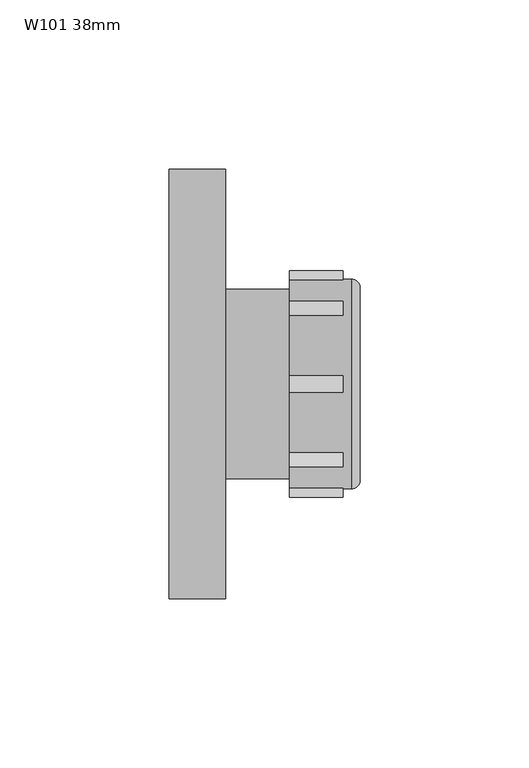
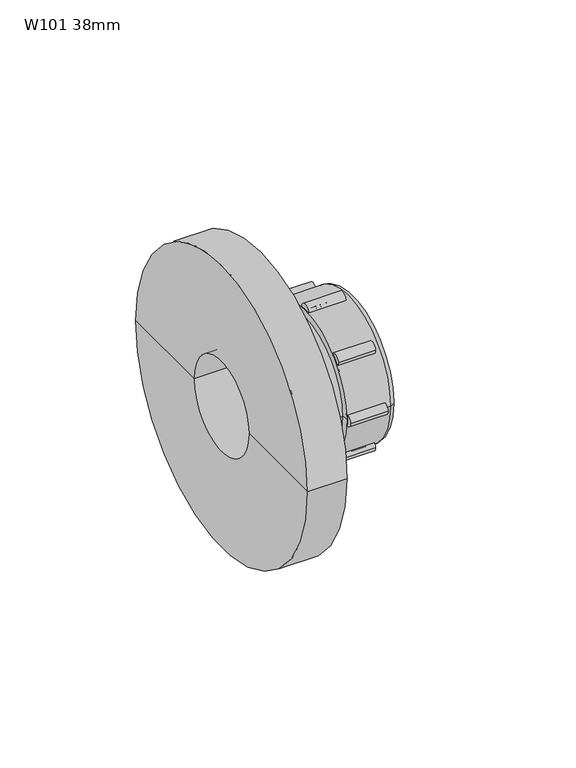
"""IFC4 building model written with IfcOpenShell, lengths in millimetres: pipe fitting geometry, Durapipe_PipeFitting_VulcatheneMechanical_Flange_(L364-L40) : W101 38mm."""

from ifc_helpers import new_model, si_unit, point, frame, frame_2d, origin, place, context, project, spatial, polyline, circle_curve, ellipse_curve, trimmed, segment, composite_curve, outline, extrude, source, transform, mapped, element, save
from ifc_brep_helpers import plane_surface, cylinder_surface, revolved_surface, advanced_brep


def w101_38mm_a402c0b6(model_context):
    return source(origin(), model_context, "Body", "SolidModel", [
        advanced_brep(
        [(24.05, -18.5969083, -18.5969083), (24.05, 18.5969083, 18.5969083), (24.05, 17.1119841, 17.1119841), (24.05, -17.1119841, -17.1119841), (19.05, -18.3140656, -18.3140656), (19.05, 18.3140656, 18.3140656), (17.55, -18.1019336, -18.1019336), (17.55, 18.1019336, 18.1019336), (19.05, 18.1019336, 18.1019336), (19.05, -18.1019336, -18.1019336), (17.55, -17.1119841, -17.1119841), (17.55, 17.1119841, 17.1119841), (19.55, -17.1119841, -17.1119841), (19.55, 17.1119841, 17.1119841), (19.55, -16.5462987, -16.5462987), (19.55, 16.5462987, 16.5462987), (21.85, -17.1119841, -17.1119841), (21.85, 17.1119841, 17.1119841), (21.85, 16.5462987, 16.5462987), (21.85, -16.5462987, -16.5462987)],
        [
            (0, 1, circle_curve(frame((24.05, 0.0, 0.0), z_axis=(1.0, 0.0, 0.0), x_axis=(0.0, 0.7071067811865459, 0.7071067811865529)), 26.3)),
            (1, 2),
            (2, 3, circle_curve(frame((24.05, 0.0, 0.0), z_axis=(-1.0, 0.0, 0.0), x_axis=(0.0, 0.7071067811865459, 0.7071067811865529)), 24.2)),
            (3, 0),
            (1, 0, circle_curve(frame((24.05, 0.0, 0.0), z_axis=(1.0, 0.0, 0.0), x_axis=(0.0, 0.7071067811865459, 0.7071067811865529)), 26.3)),
            (3, 2, circle_curve(frame((24.05, 0.0, 0.0), z_axis=(-1.0, 0.0, 0.0), x_axis=(0.0, 0.7071067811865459, 0.7071067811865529)), 24.2)),
            (4, 5, circle_curve(frame((19.05, 0.0, 0.0), z_axis=(1.0, 0.0, 0.0), x_axis=(0.0, 0.7071067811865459, 0.7071067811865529)), 25.9)),
            (5, 1),
            (0, 4),
            (5, 4, circle_curve(frame((19.05, 0.0, 0.0), z_axis=(1.0, 0.0, 0.0), x_axis=(0.0, 0.7071067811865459, 0.7071067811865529)), 25.9)),
            (6, 7, circle_curve(frame((17.55, 0.0, 0.0), z_axis=(1.0, 0.0, 0.0), x_axis=(0.0, 0.7071067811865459, 0.7071067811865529)), 25.6)),
            (7, 8),
            (8, 9, circle_curve(frame((19.05, 0.0, 0.0), z_axis=(-1.0, 0.0, 0.0), x_axis=(0.0, 0.7071067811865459, 0.7071067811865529)), 25.6)),
            (9, 6),
            (7, 6, circle_curve(frame((17.55, 0.0, 0.0), z_axis=(1.0, 0.0, 0.0), x_axis=(0.0, 0.7071067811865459, 0.7071067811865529)), 25.6)),
            (9, 8, circle_curve(frame((19.05, 0.0, 0.0), z_axis=(-1.0, 0.0, 0.0), x_axis=(0.0, 0.7071067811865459, 0.7071067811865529)), 25.6)),
            (6, 10),
            (10, 11, circle_curve(frame((17.55, 0.0, 0.0), z_axis=(1.0, 0.0, 0.0), x_axis=(0.0, 0.7071067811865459, 0.7071067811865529)), 24.2)),
            (11, 7),
            (11, 10, circle_curve(frame((17.55, 0.0, 0.0), z_axis=(1.0, 0.0, 0.0), x_axis=(0.0, 0.7071067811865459, 0.7071067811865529)), 24.2)),
            (10, 12),
            (12, 13, circle_curve(frame((19.55, 0.0, 0.0), z_axis=(1.0, 0.0, 0.0), x_axis=(0.0, 0.7071067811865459, 0.7071067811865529)), 24.2)),
            (13, 11),
            (13, 12, circle_curve(frame((19.55, 0.0, 0.0), z_axis=(1.0, 0.0, 0.0), x_axis=(0.0, 0.7071067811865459, 0.7071067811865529)), 24.2)),
            (12, 14),
            (14, 15, circle_curve(frame((19.55, 0.0, 0.0), z_axis=(1.0, 0.0, 0.0), x_axis=(0.0, 0.7071067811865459, 0.7071067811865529)), 23.4)),
            (15, 13),
            (15, 14, circle_curve(frame((19.55, 0.0, 0.0), z_axis=(1.0, 0.0, 0.0), x_axis=(0.0, 0.7071067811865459, 0.7071067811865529)), 23.4)),
            (16, 17, circle_curve(frame((21.85, 0.0, 0.0), z_axis=(1.0, 0.0, 0.0), x_axis=(0.0, 0.7071067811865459, 0.7071067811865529)), 24.2)),
            (17, 18),
            (18, 19, circle_curve(frame((21.85, 0.0, 0.0), z_axis=(-1.0, 0.0, 0.0), x_axis=(0.0, 0.7071067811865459, 0.7071067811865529)), 23.4)),
            (19, 16),
            (17, 16, circle_curve(frame((21.85, 0.0, 0.0), z_axis=(1.0, 0.0, 0.0), x_axis=(0.0, 0.7071067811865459, 0.7071067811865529)), 24.2)),
            (19, 18, circle_curve(frame((21.85, 0.0, 0.0), z_axis=(-1.0, 0.0, 0.0), x_axis=(0.0, 0.7071067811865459, 0.7071067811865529)), 23.4)),
            (2, 17),
            (16, 3),
            (14, 19),
            (18, 15),
            (4, 9),
            (8, 5),
        ],
        [
            plane_surface(frame((24.05, 0.0, 0.0), z_axis=(1.0, 0.0, 0.0), x_axis=(0.0, 0.707106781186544, 0.707106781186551))),
            revolved_surface(polyline([(24.05, 18.5969083, 18.5969083), (19.05, 18.3140656, 18.3140656)]), (29.05, 0.0, 0.0), (-1.0000000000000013, 0.0, 0.0)),
            cylinder_surface(frame((15.4793443, 0.0, 0.0), z_axis=(-1.0000000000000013, 0.0, 0.0), x_axis=(0.0, 0.7071067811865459, 0.7071067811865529)), 25.6),
            plane_surface(frame((17.55, 0.0, 0.0), z_axis=(-1.0, 0.0, 0.0), x_axis=(0.0, 0.707106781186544, 0.707106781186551))),
            revolved_surface(polyline([(17.55000000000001, 17.11198410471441, 17.11198410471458), (19.550000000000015, 17.11198410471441, 17.11198410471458)]), (14.057009, 0.0, 0.0), (-1.0000000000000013, 0.0, 0.0)),
            plane_surface(frame((19.55, 0.0, 0.0), z_axis=(-1.0, 0.0, 0.0), x_axis=(0.0, 0.707106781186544, 0.707106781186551))),
            plane_surface(frame((21.85, 0.0, 0.0), z_axis=(1.0, 0.0, 0.0), x_axis=(0.0, 0.707106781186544, 0.707106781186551))),
            revolved_surface(polyline([(21.84999999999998, 17.11198410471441, 17.11198410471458), (24.049999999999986, 17.11198410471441, 17.11198410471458)]), (29.05, 0.0, 0.0), (-1.0000000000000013, 0.0, 0.0)),
            revolved_surface(polyline([(19.549999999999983, 16.546298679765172, 16.546298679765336), (21.84999999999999, 16.546298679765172, 16.546298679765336)]), (25.6161924, 0.0, 0.0), (-1.0000000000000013, 0.0, 0.0)),
            plane_surface(frame((19.05, 0.0, 0.0), z_axis=(-1.0, 0.0, 0.0), x_axis=(0.0, 0.707106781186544, 0.707106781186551))),
        ],
        [
            (0, [[1, 2, 3, 4]]),
            (0, [[-2, 5, -4, 6]]),
            (1, [[7, 8, -1, 9]]),
            (1, [[10, -9, -5, -8]]),
            (2, [[11, 12, 13, 14]]),
            (2, [[-12, 15, -14, 16]]),
            (3, [[-11, 17, 18, 19]]),
            (3, [[-15, -19, 20, -17]]),
            (4, [[21, 22, 23, -18]]),
            (4, [[-21, -20, -23, 24]]),
            (5, [[-22, 25, 26, 27]]),
            (5, [[-24, -27, 28, -25]]),
            (6, [[29, 30, 31, 32]]),
            (6, [[33, -32, 34, -30]]),
            (7, [[-3, 35, -29, 36]]),
            (7, [[-6, -36, -33, -35]]),
            (8, [[37, -31, 38, -26]]),
            (8, [[-37, -28, -38, -34]]),
            (9, [[-7, 39, -13, 40]]),
            (9, [[-10, -40, -16, -39]]),
        ],
    ),
        advanced_brep(
        [(7.35, -31.0, 0.0), (7.35, 31.0, 0.0), (25.75, 31.0, 0.0), (25.75, -31.0, 0.0), (7.35, -26.0, 0.0), (7.35, 26.0, 0.0), (28.25, -28.5, 0.0), (28.25, 28.5, 0.0), (28.25, 24.0, 0.0), (28.25, -24.0, 0.0), (24.05, -26.0, 0.0), (24.05, 26.0, 0.0), (24.05, -24.0, 0.0), (24.05, 24.0, 0.0)],
        [
            (0, 1, circle_curve(frame((7.35, 0.0, 0.0), z_axis=(1.0, 0.0, 0.0), x_axis=(0.0, 1.0000000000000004, 0.0)), 31.0)),
            (1, 2),
            (2, 3, circle_curve(frame((25.75, 0.0, 0.0), z_axis=(-1.0, 0.0, 0.0), x_axis=(0.0, 1.0000000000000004, 0.0)), 31.0)),
            (3, 0),
            (1, 0, circle_curve(frame((7.35, 0.0, 0.0), z_axis=(1.0, 0.0, 0.0), x_axis=(0.0, 1.0000000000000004, 0.0)), 31.0)),
            (3, 2, circle_curve(frame((25.75, 0.0, 0.0), z_axis=(-1.0, 0.0, 0.0), x_axis=(0.0, 1.0000000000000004, 0.0)), 31.0)),
            (4, 5, circle_curve(frame((7.35, 0.0, 0.0), z_axis=(1.0, 0.0, 0.0), x_axis=(0.0, 1.0000000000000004, 0.0)), 26.0)),
            (5, 1),
            (0, 4),
            (5, 4, circle_curve(frame((7.35, 0.0, 0.0), z_axis=(1.0, 0.0, 0.0), x_axis=(0.0, 1.0000000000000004, 0.0)), 26.0)),
            (6, 7, circle_curve(frame((28.25, 0.0, 0.0), z_axis=(1.0, 0.0, 0.0), x_axis=(0.0, 1.0000000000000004, 0.0)), 28.5)),
            (7, 8),
            (8, 9, circle_curve(frame((28.25, 0.0, 0.0), z_axis=(-1.0, 0.0, 0.0), x_axis=(0.0, 1.0000000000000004, 0.0)), 24.0)),
            (9, 6),
            (7, 6, circle_curve(frame((28.25, 0.0, 0.0), z_axis=(1.0, 0.0, 0.0), x_axis=(0.0, 1.0000000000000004, 0.0)), 28.5)),
            (9, 8, circle_curve(frame((28.25, 0.0, 0.0), z_axis=(-1.0, 0.0, 0.0), x_axis=(0.0, 1.0000000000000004, 0.0)), 24.0)),
            (2, 7, circle_curve(frame((25.75, 28.5, 0.0), z_axis=(0.0, 0.0, -1.0000000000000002), x_axis=(1.0000000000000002, 0.0, 0.0)), 2.5)),
            (6, 3, circle_curve(frame((25.75, -28.5, 0.0), z_axis=(0.0, 0.0, -1.0000000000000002), x_axis=(1.0000000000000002, 0.0, 0.0)), 2.5)),
            (10, 11, circle_curve(frame((24.05, 0.0, 0.0), z_axis=(1.0, 0.0, 0.0), x_axis=(0.0, 1.0000000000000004, 0.0)), 26.0)),
            (11, 5),
            (4, 10),
            (11, 10, circle_curve(frame((24.05, 0.0, 0.0), z_axis=(1.0, 0.0, 0.0), x_axis=(0.0, 1.0000000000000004, 0.0)), 26.0)),
            (12, 13, circle_curve(frame((24.05, 0.0, 0.0), z_axis=(1.0, 0.0, 0.0), x_axis=(0.0, 1.0000000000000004, 0.0)), 24.0)),
            (13, 11),
            (10, 12),
            (13, 12, circle_curve(frame((24.05, 0.0, 0.0), z_axis=(1.0, 0.0, 0.0), x_axis=(0.0, 1.0000000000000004, 0.0)), 24.0)),
            (8, 13),
            (12, 9),
        ],
        [
            cylinder_surface(frame((1589.0518184, 0.0, 0.0), z_axis=(-1.0000000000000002, 0.0, 0.0), x_axis=(0.0, 1.0000000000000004, 0.0)), 31.0),
            plane_surface(frame((7.35, 0.0, 0.0), z_axis=(-1.0, 0.0, 0.0), x_axis=(0.0, 1.0, 0.0))),
            plane_surface(frame((28.25, 0.0, 0.0), z_axis=(1.0, 0.0, 0.0), x_axis=(0.0, 1.0, 0.0))),
            revolved_surface(trimmed(ellipse_curve(frame((25.75, 28.5, 0.0), z_axis=(0.0, 0.0, 1.0000000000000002), x_axis=(1.0000000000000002, 0.0, 0.0)), 2.5, 2.5), [point((28.25, 28.5, 0.0))], [point((25.75, 31.0, 0.0))], True, "CARTESIAN"), (1589.0518184, 0.0, 0.0), (-1.0000000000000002, 0.0, 0.0)),
            revolved_surface(polyline([(7.3499999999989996, 26.00000000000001, 0.0), (24.049999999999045, 26.00000000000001, 0.0)]), (1589.0518184, 0.0, 0.0), (-1.0000000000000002, 0.0, 0.0)),
            plane_surface(frame((24.05, 0.0, 0.0), z_axis=(-1.0, 0.0, 0.0), x_axis=(0.0, 1.0, 0.0))),
            revolved_surface(polyline([(24.049999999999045, 24.00000000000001, 0.0), (28.24999999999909, 24.00000000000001, 0.0)]), (1589.0518184, 0.0, 0.0), (-1.0000000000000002, 0.0, 0.0)),
        ],
        [
            (0, [[1, 2, 3, 4]]),
            (0, [[5, -4, 6, -2]]),
            (1, [[7, 8, -1, 9]]),
            (1, [[10, -9, -5, -8]]),
            (2, [[11, 12, 13, 14]]),
            (2, [[15, -14, 16, -12]]),
            (3, [[-3, 17, -11, 18]]),
            (3, [[-6, -18, -15, -17]]),
            (4, [[19, 20, -7, 21]]),
            (4, [[22, -21, -10, -20]]),
            (5, [[23, 24, -19, 25]]),
            (5, [[26, -25, -22, -24]]),
            (6, [[-13, 27, -23, 28]]),
            (6, [[-16, -28, -26, -27]]),
        ],
    ),
        extrude(outline(composite_curve([segment(trimmed(circle_curve(frame_2d((0.0, 31.0)), 2.5), [point((-2.5, 31.0))], [point((2.5, 31.0))], False, "CARTESIAN"), True, "CONTINUOUS"), segment(trimmed(circle_curve(frame_2d((0.0, 31.0)), 2.5), [point((2.5, 31.0))], [point((-2.5, 31.0))], False, "CARTESIAN"), True, "CONTINUOUS")], self_intersect=False)), frame((7.35, 0.0, 0.0), z_axis=(1.0, 0.0, 0.0), x_axis=(0.0, 1.0, 0.0)), (0.0, 0.0, 1.0), 15.9),
        extrude(outline(composite_curve([segment(trimmed(circle_curve(frame_2d((21.9203102, 21.9203102)), 2.5), [point((19.4203102, 21.9203102))], [point((24.4203102, 21.9203102))], False, "CARTESIAN"), True, "CONTINUOUS"), segment(trimmed(circle_curve(frame_2d((21.9203102, 21.9203102)), 2.5), [point((24.4203102, 21.9203102))], [point((19.4203102, 21.9203102))], False, "CARTESIAN"), True, "CONTINUOUS")], self_intersect=False)), frame((7.35, 0.0, 0.0), z_axis=(1.0, 0.0, 0.0), x_axis=(0.0, 1.0, 0.0)), (0.0, 0.0, 1.0), 15.9),
        extrude(outline(composite_curve([segment(trimmed(circle_curve(frame_2d((31.0, 0.0)), 2.5), [point((28.5, 0.0))], [point((33.5, 0.0))], False, "CARTESIAN"), True, "CONTINUOUS"), segment(trimmed(circle_curve(frame_2d((31.0, 0.0)), 2.5), [point((33.5, 0.0))], [point((28.5, 0.0))], False, "CARTESIAN"), True, "CONTINUOUS")], self_intersect=False)), frame((7.35, 0.0, 0.0), z_axis=(1.0, 0.0, 0.0), x_axis=(0.0, 1.0, 0.0)), (0.0, 0.0, 1.0), 15.9),
        extrude(outline(composite_curve([segment(trimmed(circle_curve(frame_2d((21.9203102, -21.9203102)), 2.5), [point((19.4203102, -21.9203102))], [point((24.4203102, -21.9203102))], False, "CARTESIAN"), True, "CONTINUOUS"), segment(trimmed(circle_curve(frame_2d((21.9203102, -21.9203102)), 2.5), [point((24.4203102, -21.9203102))], [point((19.4203102, -21.9203102))], False, "CARTESIAN"), True, "CONTINUOUS")], self_intersect=False)), frame((7.35, 0.0, 0.0), z_axis=(1.0, 0.0, 0.0), x_axis=(0.0, 1.0, 0.0)), (0.0, 0.0, 1.0), 15.9),
        extrude(outline(composite_curve([segment(trimmed(circle_curve(frame_2d((0.0, -31.0)), 2.5), [point((-2.5, -31.0))], [point((2.5, -31.0))], False, "CARTESIAN"), True, "CONTINUOUS"), segment(trimmed(circle_curve(frame_2d((0.0, -31.0)), 2.5), [point((2.5, -31.0))], [point((-2.5, -31.0))], False, "CARTESIAN"), True, "CONTINUOUS")], self_intersect=False)), frame((7.35, 0.0, 0.0), z_axis=(1.0, 0.0, 0.0), x_axis=(0.0, 1.0, 0.0)), (0.0, 0.0, 1.0), 15.9),
        extrude(outline(composite_curve([segment(trimmed(circle_curve(frame_2d((-21.9203102, -21.9203102)), 2.5), [point((-24.4203102, -21.9203102))], [point((-19.4203102, -21.9203102))], False, "CARTESIAN"), True, "CONTINUOUS"), segment(trimmed(circle_curve(frame_2d((-21.9203102, -21.9203102)), 2.5), [point((-19.4203102, -21.9203102))], [point((-24.4203102, -21.9203102))], False, "CARTESIAN"), True, "CONTINUOUS")], self_intersect=False)), frame((7.35, 0.0, 0.0), z_axis=(1.0, 0.0, 0.0), x_axis=(0.0, 1.0, 0.0)), (0.0, 0.0, 1.0), 15.9),
        extrude(outline(composite_curve([segment(trimmed(circle_curve(frame_2d((-31.0, 0.0)), 2.5), [point((-33.5, 0.0))], [point((-28.5, 0.0))], False, "CARTESIAN"), True, "CONTINUOUS"), segment(trimmed(circle_curve(frame_2d((-31.0, 0.0)), 2.5), [point((-28.5, 0.0))], [point((-33.5, 0.0))], False, "CARTESIAN"), True, "CONTINUOUS")], self_intersect=False)), frame((7.35, 0.0, 0.0), z_axis=(1.0, 0.0, 0.0), x_axis=(0.0, 1.0, 0.0)), (0.0, 0.0, 1.0), 15.9),
        extrude(outline(composite_curve([segment(trimmed(circle_curve(frame_2d((-21.9203102, 21.9203102)), 2.5), [point((-24.4203102, 21.9203102))], [point((-19.4203102, 21.9203102))], False, "CARTESIAN"), True, "CONTINUOUS"), segment(trimmed(circle_curve(frame_2d((-21.9203102, 21.9203102)), 2.5), [point((-19.4203102, 21.9203102))], [point((-24.4203102, 21.9203102))], False, "CARTESIAN"), True, "CONTINUOUS")], self_intersect=False)), frame((7.35, 0.0, 0.0), z_axis=(1.0, 0.0, 0.0), x_axis=(0.0, 1.0, 0.0)), (0.0, 0.0, 1.0), 15.9),
        advanced_brep(
        [(-11.55, -28.0, 0.0), (-11.55, 28.0, 0.0), (24.05, 28.0, 0.0), (24.05, -28.0, 0.0), (-11.55, -63.5, 0.0), (-11.55, 63.5, 0.0), (-28.25, -63.5, 0.0), (-28.25, 63.5, 0.0), (-28.25, -20.4, 0.0), (-28.25, 20.4, 0.0), (24.05, 24.25, 0.0), (24.05, -24.25, 0.0), (-1.95, -20.4, 0.0), (-1.95, 20.4, 0.0), (-1.95, 24.25, 0.0), (-1.95, -24.25, 0.0)],
        [
            (0, 1, circle_curve(frame((-11.55, 0.0, 0.0), z_axis=(1.0, 0.0, 0.0), x_axis=(0.0, 1.0, 0.0)), 28.0)),
            (1, 2),
            (2, 3, circle_curve(frame((24.05, 0.0, 0.0), z_axis=(-1.0, 0.0, 0.0), x_axis=(0.0, 1.0, 0.0)), 28.0)),
            (3, 0),
            (1, 0, circle_curve(frame((-11.55, 0.0, 0.0), z_axis=(1.0, 0.0, 0.0), x_axis=(0.0, 1.0, 0.0)), 28.0)),
            (3, 2, circle_curve(frame((24.05, 0.0, 0.0), z_axis=(-1.0, 0.0, 0.0), x_axis=(0.0, 1.0, 0.0)), 28.0)),
            (0, 4),
            (4, 5, circle_curve(frame((-11.55, 0.0, 0.0), z_axis=(1.0, 0.0, 0.0), x_axis=(0.0, 1.0, 0.0)), 63.5)),
            (5, 1),
            (5, 4, circle_curve(frame((-11.55, 0.0, 0.0), z_axis=(1.0, 0.0, 0.0), x_axis=(0.0, 1.0, 0.0)), 63.5)),
            (4, 6),
            (6, 7, circle_curve(frame((-28.25, 0.0, 0.0), z_axis=(1.0, 0.0, 0.0), x_axis=(0.0, 1.0, 0.0)), 63.5)),
            (7, 5),
            (7, 6, circle_curve(frame((-28.25, 0.0, 0.0), z_axis=(1.0, 0.0, 0.0), x_axis=(0.0, 1.0, 0.0)), 63.5)),
            (6, 8),
            (8, 9, circle_curve(frame((-28.25, 0.0, 0.0), z_axis=(1.0, 0.0, 0.0), x_axis=(0.0, 1.0, 0.0)), 20.4)),
            (9, 7),
            (9, 8, circle_curve(frame((-28.25, 0.0, 0.0), z_axis=(1.0, 0.0, 0.0), x_axis=(0.0, 1.0, 0.0)), 20.4)),
            (2, 10),
            (10, 11, circle_curve(frame((24.05, 0.0, 0.0), z_axis=(-1.0, 0.0, 0.0), x_axis=(0.0, 1.0, 0.0)), 24.25)),
            (11, 3),
            (11, 10, circle_curve(frame((24.05, 0.0, 0.0), z_axis=(-1.0, 0.0, 0.0), x_axis=(0.0, 1.0, 0.0)), 24.25)),
            (8, 12),
            (12, 13, circle_curve(frame((-1.95, 0.0, 0.0), z_axis=(1.0, 0.0, 0.0), x_axis=(0.0, 1.0, 0.0)), 20.4)),
            (13, 9),
            (13, 12, circle_curve(frame((-1.95, 0.0, 0.0), z_axis=(1.0, 0.0, 0.0), x_axis=(0.0, 1.0, 0.0)), 20.4)),
            (14, 15, circle_curve(frame((-1.95, 0.0, 0.0), z_axis=(-1.0, 0.0, 0.0), x_axis=(0.0, 1.0, 0.0)), 24.25)),
            (15, 11),
            (10, 14),
            (15, 14, circle_curve(frame((-1.95, 0.0, 0.0), z_axis=(-1.0, 0.0, 0.0), x_axis=(0.0, 1.0, 0.0)), 24.25)),
            (14, 13),
            (12, 15),
        ],
        [
            cylinder_surface(frame((-53.25, 0.0, 0.0), z_axis=(-1.0, 0.0, 0.0), x_axis=(0.0, 1.0, 0.0)), 28.0),
            plane_surface(frame((-11.55, 0.0, 0.0), z_axis=(1.0, 0.0, 0.0), x_axis=(0.0, 1.0, 0.0))),
            cylinder_surface(frame((-53.25, 0.0, 0.0), z_axis=(-1.0, 0.0, 0.0), x_axis=(0.0, 1.0, 0.0)), 63.5),
            plane_surface(frame((-28.25, 0.0, 0.0), z_axis=(-1.0, 0.0, 0.0), x_axis=(0.0, 1.0, 0.0))),
            plane_surface(frame((24.05, 0.0, 0.0), z_axis=(1.0, 0.0, 0.0), x_axis=(0.0, 1.0, 0.0))),
            revolved_surface(polyline([(-28.25, 20.4, 0.0), (-1.9500000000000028, 20.4, 0.0)]), (-53.25, 0.0, 0.0), (-1.0, 0.0, 0.0)),
            revolved_surface(polyline([(-1.9500000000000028, 24.25, 0.0), (24.049999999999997, 24.25, 0.0)]), (-43.25, 0.0, 0.0), (-1.0, 0.0, 0.0)),
            plane_surface(frame((-1.95, 0.0, 0.0), z_axis=(1.0, 0.0, 0.0), x_axis=(0.0, 1.0, 0.0))),
        ],
        [
            (0, [[1, 2, 3, 4]]),
            (0, [[-2, 5, -4, 6]]),
            (1, [[-1, 7, 8, 9]]),
            (1, [[-5, -9, 10, -7]]),
            (2, [[-8, 11, 12, 13]]),
            (2, [[-10, -13, 14, -11]]),
            (3, [[-12, 15, 16, 17]]),
            (3, [[-14, -17, 18, -15]]),
            (4, [[-3, 19, 20, 21]]),
            (4, [[-6, -21, 22, -19]]),
            (5, [[-16, 23, 24, 25]]),
            (5, [[-18, -25, 26, -23]]),
            (6, [[27, 28, -20, 29]]),
            (6, [[30, -29, -22, -28]]),
            (7, [[-27, 31, -24, 32]]),
            (7, [[-30, -32, -26, -31]]),
        ],
    ),
    ])


if __name__ == "__main__":
    model = new_model("IFC4")
    model_context = context("Model", 3, world=origin())
    ifc_project = project(units=[si_unit("LENGTHUNIT", "METRE", prefix="MILLI")], contexts=[model_context])
    site = spatial("IfcSite", under=ifc_project)
    building = spatial("IfcBuilding", under=site)
    placement = place(None, origin())
    w101_38mm_shape = w101_38mm_a402c0b6(model_context)
    element("IfcPipeFitting", 1, ObjectType="Durapipe_PipeFitting_VulcatheneMechanical_Flange_(L364-L40) : W101 38mm", at=placement, inside=building, context=model_context, shape_type="MappedRepresentation", body=[
        mapped(w101_38mm_shape, transform((0.0, 0.0, 0.0), x_axis=(1.0, 0.0, 0.0), y_axis=(0.0, 1.0, 0.0), z_axis=(0.0, 0.0, 1.0))),
    ])
    save(model, "model.ifc")
